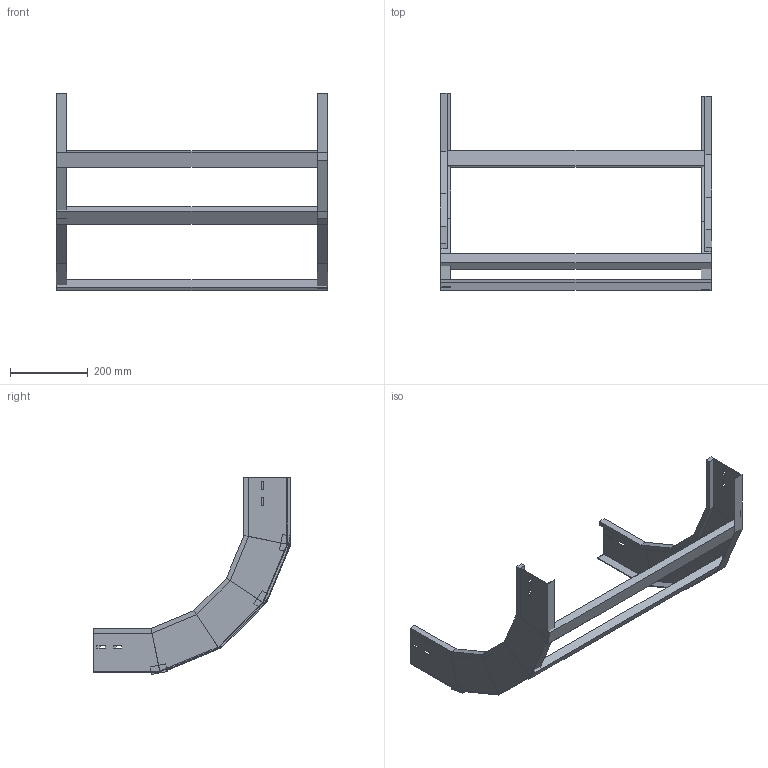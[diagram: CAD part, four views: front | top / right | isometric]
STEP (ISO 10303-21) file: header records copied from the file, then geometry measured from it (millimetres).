
FILE_DESCRIPTION (( 'STEP AP214' ), '1' );
FILE_NAME ('A2X30B3J700XX.step', '2025-04-02T09:18:22', ( '' ), ( '' ), 'SwSTEP 2.0', 'SolidWorks 2023', '' );
FILE_SCHEMA (( 'AUTOMOTIVE_DESIGN' ));
Length unit declared in the file: millimetre
Products named in the file (3): LONGH.SALITA_90°_H112.5_R300; TRAVERSINO_700; A2X30B3J700XX
Assembly tree (5 placements, depth 2):
  A2X30B3J700XX
    LONGH.SALITA_90°_H112.5_R300  x2
    TRAVERSINO_700  x3
Bounding box: 700 x 509.89 x 507.89 mm (x, y, z)
Volume: 2362909.2 mm3; surface area: 725022.1 mm2
Topology: 5 solids, 5 shells, 134 faces, 308 edges, 184 vertices
Faces by surface type: plane 134
Entity records: 1864 total; most frequent: CARTESIAN_POINT 308, ORIENTED_EDGE 296, DIRECTION 292, EDGE_CURVE 148, LINE 148, VECTOR 148, VERTEX_POINT 88, EDGE_LOOP 72
